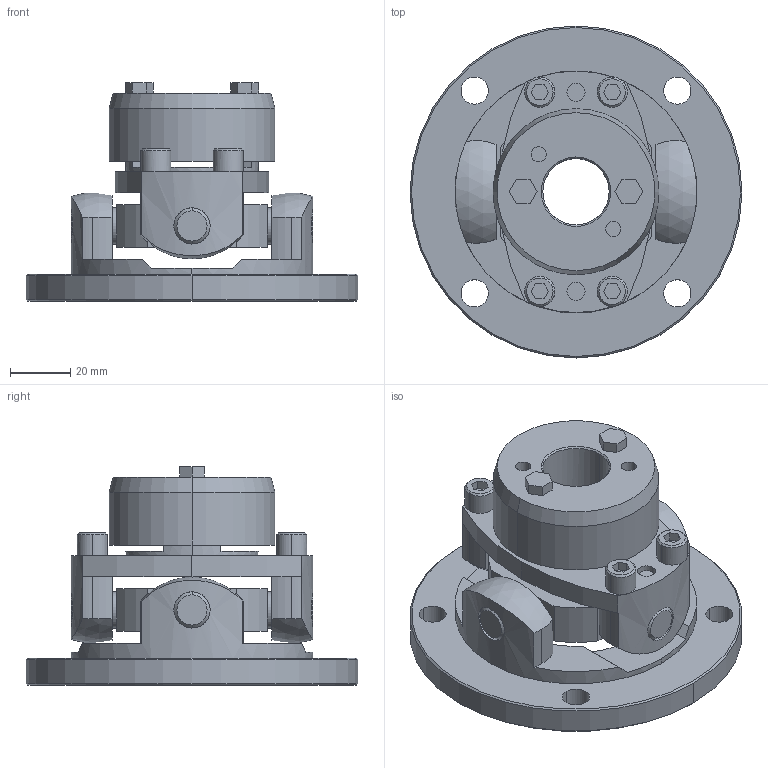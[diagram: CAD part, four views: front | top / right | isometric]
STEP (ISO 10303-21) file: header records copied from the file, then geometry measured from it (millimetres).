
FILE_DESCRIPTION((''),'2;1');
FILE_NAME('UCNF-80T7-22.stp','2011-09-17T16:26:24',(''),(''),'AutoCAD STEP 2000i','AutoCAD 2000i',', , ');
FILE_SCHEMA(('CONFIG_CONTROL_DESIGN'));
Length unit declared in the file: millimetre
Products named in the file (8): UCNF-80T7-22; 忣兜1; UCN80T7-T022; UCN80T7-T019; UCNF-8002; UCN80T7-T017-1; UCN80T7-T017; UCN80-SEN
Assembly tree (7 placements, depth 2):
  UCNF-80T7-22
    忣兜1
    UCN80T7-T022
    UCN80T7-T019
    UCNF-8002
    UCN80T7-T017-1
    UCN80T7-T017
    UCN80-SEN
Bounding box: 110 x 110 x 72.5 mm (x, y, z)
Volume: 195714.8 mm3; surface area: 55092.2 mm2
Topology: 1 solids, 1 shells, 268 faces, 670 edges, 436 vertices
Faces by surface type: plane 122, cylinder 104, cone 38, sphere 4
Entity records: 8681 total; most frequent: CARTESIAN_POINT 1786, DIRECTION 1504, ORIENTED_EDGE 1340, EDGE_CURVE 670, AXIS2_PLACEMENT_3D 574, VERTEX_POINT 436, VECTOR 356, LINE 356
